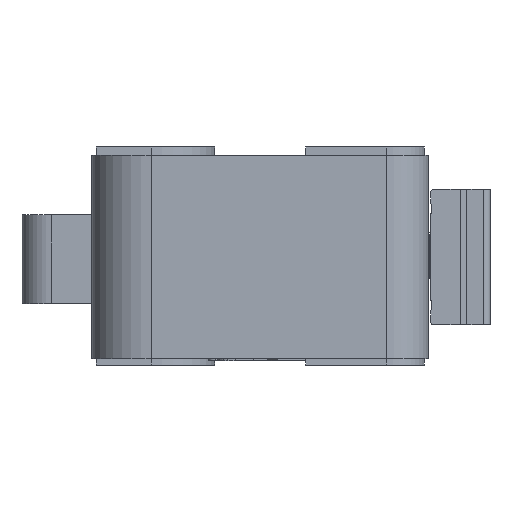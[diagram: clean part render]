
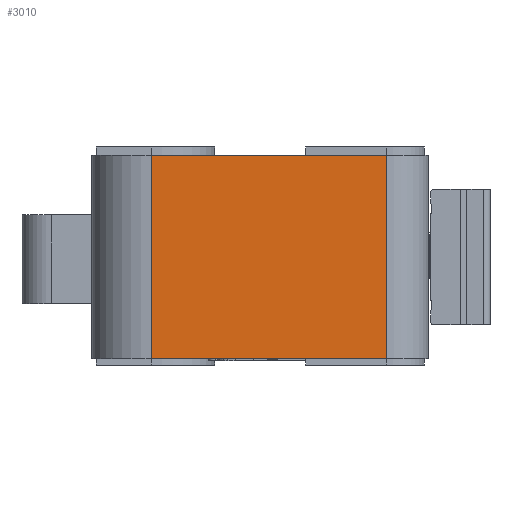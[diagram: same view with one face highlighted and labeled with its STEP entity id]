
A CAD part, left-side view. The second image highlights one B-rep face of the part: STEP entity #3010.
In plain terms, the highlighted planar face has unit normal (-1, 0, 0).
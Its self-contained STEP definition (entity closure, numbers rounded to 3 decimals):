
#1162 = EDGE_LOOP ( 'NONE', ( #4218, #4219, #4220, #4216 ) ) ;
#3010 = ADVANCED_FACE ( 'NONE', ( #12494 ), #11495, .F. ) ;
#3312 = EDGE_CURVE ( 'NONE', #19389, #19388, #15002, .T. ) ;
#3523 = EDGE_CURVE ( 'NONE', #19134, #19010, #15871, .T. ) ;
#3658 = EDGE_CURVE ( 'NONE', #19010, #19388, #16578, .T. ) ;
#3678 = EDGE_CURVE ( 'NONE', #19134, #19389, #16638, .T. ) ;
#4216 = ORIENTED_EDGE ( 'NONE', *, *, #3678, .T. ) ;
#4218 = ORIENTED_EDGE ( 'NONE', *, *, #3312, .T. ) ;
#4219 = ORIENTED_EDGE ( 'NONE', *, *, #3658, .F. ) ;
#4220 = ORIENTED_EDGE ( 'NONE', *, *, #3523, .F. ) ;
#11495 = PLANE ( 'NONE',  #12509 ) ;
#11496 = CARTESIAN_POINT ( 'NONE',  ( -6.766, 9.319, 6.8 ) ) ;
#11497 = DIRECTION ( 'NONE',  ( 1., 0., 0. ) ) ;
#11498 = DIRECTION ( 'NONE',  ( 0., 1., 0. ) ) ;
#12494 = FACE_OUTER_BOUND ( 'NONE', #1162, .T. ) ;
#12509 = AXIS2_PLACEMENT_3D ( 'NONE', #11496, #11497, #11498 ) ;
#12803 = VECTOR ( 'NONE', #15004, 1000. ) ;
#13025 = VECTOR ( 'NONE', #15873, 1000. ) ;
#15002 = LINE ( 'NONE', #15003, #12803 ) ;
#15003 = CARTESIAN_POINT ( 'NONE',  ( -6.766, 9.319, 0. ) ) ;
#15004 = DIRECTION ( 'NONE',  ( 0., -1., 0. ) ) ;
#15871 = LINE ( 'NONE', #15872, #13025 ) ;
#15872 = CARTESIAN_POINT ( 'NONE',  ( -6.766, 9.319, 9.6 ) ) ;
#15873 = DIRECTION ( 'NONE',  ( 0., -1., 0. ) ) ;
#16578 = LINE ( 'NONE', #16579, #17181 ) ;
#16579 = CARTESIAN_POINT ( 'NONE',  ( -6.766, -1.781, 6.8 ) ) ;
#16580 = DIRECTION ( 'NONE',  ( 0., 0., -1. ) ) ;
#16638 = LINE ( 'NONE', #16639, #17201 ) ;
#16639 = CARTESIAN_POINT ( 'NONE',  ( -6.766, 9.319, 6.8 ) ) ;
#16640 = DIRECTION ( 'NONE',  ( 0., 0., -1. ) ) ;
#17181 = VECTOR ( 'NONE', #16580, 1000. ) ;
#17201 = VECTOR ( 'NONE', #16640, 1000. ) ;
#19010 = VERTEX_POINT ( 'NONE', #26982 ) ;
#19134 = VERTEX_POINT ( 'NONE', #27106 ) ;
#19388 = VERTEX_POINT ( 'NONE', #27360 ) ;
#19389 = VERTEX_POINT ( 'NONE', #27361 ) ;
#26982 = CARTESIAN_POINT ( 'NONE',  ( -6.766, -1.781, 9.6 ) ) ;
#27106 = CARTESIAN_POINT ( 'NONE',  ( -6.766, 9.319, 9.6 ) ) ;
#27360 = CARTESIAN_POINT ( 'NONE',  ( -6.766, -1.781, 0. ) ) ;
#27361 = CARTESIAN_POINT ( 'NONE',  ( -6.766, 9.319, 0. ) ) ;
